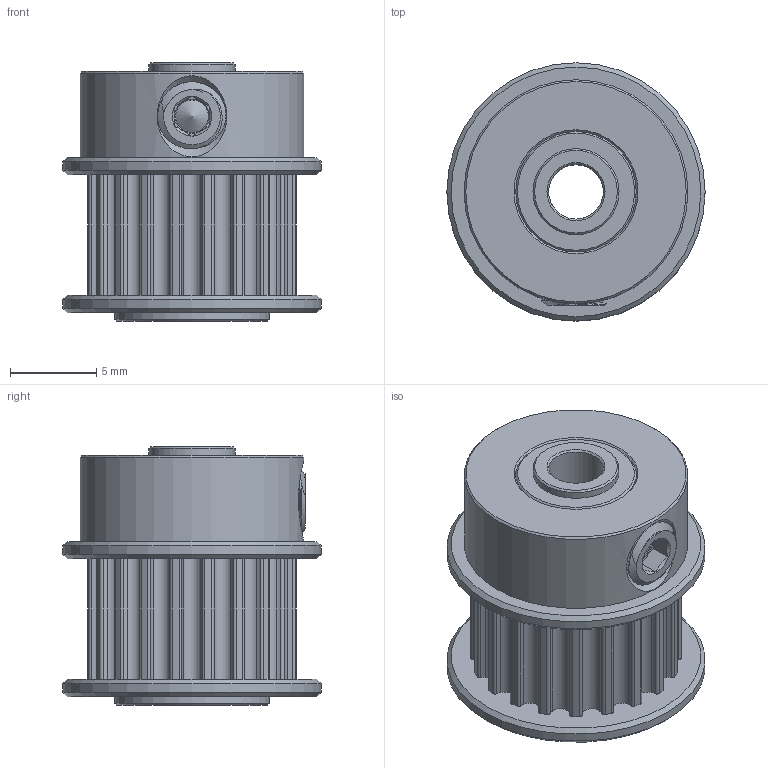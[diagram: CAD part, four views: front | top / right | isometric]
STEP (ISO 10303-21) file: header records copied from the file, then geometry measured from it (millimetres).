
FILE_DESCRIPTION(/* description */ (''),/* implementation_level */ '2;1');
FILE_NAME(/* name */ '3422-0125-0020.step',/* time_stamp */ '2025-09-12T17:01:36-05:00',/* author */ (''),/* organization */ (''),/* preprocessor_version */ 'ST-DEVELOPER v20.1',/* originating_system */ 'Autodesk Translation Framework v14.17.0.0',/* authorisation */ '');
FILE_SCHEMA (('AUTOMOTIVE_DESIGN { 1 0 10303 214 3 1 1 }'));
Products named in the file (2): __3422-0125-0020-REV0; 2806-0004-0005 REV0
Assembly tree (1 placements, depth 2):
  __3422-0125-0020-REV0
    2806-0004-0005 REV0
Bounding box: 15 x 15 x 15 mm (x, y, z)
Volume: 1641.1 mm3; surface area: 1981.2 mm2
Topology: 4 solids, 4 shells, 241 faces, 673 edges, 442 vertices
Faces by surface type: cylinder 173, plane 25, cone 23, bspline 20
Full cylindrical faces by diameter (mm): 3.091 x6, 3.175 x1, 3.3 x5, 4 x8, 5 x1, 7 x2, 9 x2, 13 x1, 15 x2
Entity records: 30327 total; most frequent: CARTESIAN_POINT 24177, ORIENTED_EDGE 1342, DIRECTION 1268, EDGE_CURVE 671, AXIS2_PLACEMENT_3D 538, VERTEX_POINT 442, CIRCLE 309, EDGE_LOOP 255
